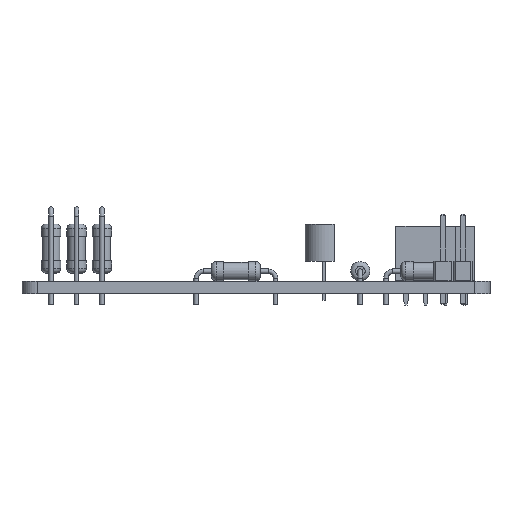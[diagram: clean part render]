
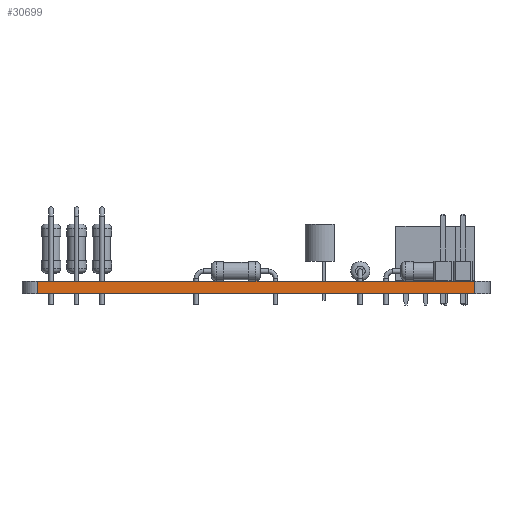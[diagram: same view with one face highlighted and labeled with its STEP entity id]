
A CAD part, front view. The second image highlights one B-rep face of the part: STEP entity #30699.
In plain terms, the highlighted planar face has unit normal (0, -1, 0).
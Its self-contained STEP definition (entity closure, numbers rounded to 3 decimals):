
#24664 = CYLINDRICAL_SURFACE('',#24665,2.);
#24665 = AXIS2_PLACEMENT_3D('',#24666,#24667,#24668);
#24666 = CARTESIAN_POINT('',(28.,-30.5,0.));
#24667 = DIRECTION('',(-0.,-0.,-1.));
#24668 = DIRECTION('',(1.,0.,-0.));
#24692 = PLANE('',#24693);
#24693 = AXIS2_PLACEMENT_3D('',#24694,#24695,#24696);
#24694 = CARTESIAN_POINT('',(0.,0.,1.6)
  );
#24695 = DIRECTION('',(0.,0.,1.));
#24696 = DIRECTION('',(1.,0.,-0.));
#24746 = PLANE('',#24747);
#24747 = AXIS2_PLACEMENT_3D('',#24748,#24749,#24750);
#24748 = CARTESIAN_POINT('',(0.,0.,0.)
  );
#24749 = DIRECTION('',(0.,0.,1.));
#24750 = DIRECTION('',(1.,0.,-0.));
#24761 = EDGE_CURVE('',#24762,#24764,#24766,.T.);
#24762 = VERTEX_POINT('',#24763);
#24763 = CARTESIAN_POINT('',(28.,-32.5,0.));
#24764 = VERTEX_POINT('',#24765);
#24765 = CARTESIAN_POINT('',(28.,-32.5,1.6));
#24766 = SURFACE_CURVE('',#24767,(#24771,#24778),.PCURVE_S1.);
#24767 = LINE('',#24768,#24769);
#24768 = CARTESIAN_POINT('',(28.,-32.5,0.));
#24769 = VECTOR('',#24770,1.);
#24770 = DIRECTION('',(0.,0.,1.));
#24771 = PCURVE('',#24664,#24772);
#24772 = DEFINITIONAL_REPRESENTATION('',(#24773),#24777);
#24773 = LINE('',#24774,#24775);
#24774 = CARTESIAN_POINT('',(-4.712,0.));
#24775 = VECTOR('',#24776,1.);
#24776 = DIRECTION('',(-0.,-1.));
#24777 = ( GEOMETRIC_REPRESENTATION_CONTEXT(2) 
PARAMETRIC_REPRESENTATION_CONTEXT() REPRESENTATION_CONTEXT('2D SPACE',''
  ) );
#24778 = PCURVE('',#24779,#24784);
#24779 = PLANE('',#24780);
#24780 = AXIS2_PLACEMENT_3D('',#24781,#24782,#24783);
#24781 = CARTESIAN_POINT('',(-28.,-32.5,0.));
#24782 = DIRECTION('',(0.,1.,0.));
#24783 = DIRECTION('',(1.,0.,0.));
#24784 = DEFINITIONAL_REPRESENTATION('',(#24785),#24789);
#24785 = LINE('',#24786,#24787);
#24786 = CARTESIAN_POINT('',(56.,0.));
#24787 = VECTOR('',#24788,1.);
#24788 = DIRECTION('',(0.,-1.));
#24789 = ( GEOMETRIC_REPRESENTATION_CONTEXT(2) 
PARAMETRIC_REPRESENTATION_CONTEXT() REPRESENTATION_CONTEXT('2D SPACE',''
  ) );
#25000 = VERTEX_POINT('',#25001);
#25001 = CARTESIAN_POINT('',(-28.,-32.5,0.));
#25016 = CYLINDRICAL_SURFACE('',#25017,2.);
#25017 = AXIS2_PLACEMENT_3D('',#25018,#25019,#25020);
#25018 = CARTESIAN_POINT('',(-28.,-30.5,0.));
#25019 = DIRECTION('',(-0.,-0.,-1.));
#25020 = DIRECTION('',(1.,0.,-0.));
#25028 = EDGE_CURVE('',#25000,#24762,#25029,.T.);
#25029 = SURFACE_CURVE('',#25030,(#25034,#25041),.PCURVE_S1.);
#25030 = LINE('',#25031,#25032);
#25031 = CARTESIAN_POINT('',(-28.,-32.5,0.));
#25032 = VECTOR('',#25033,1.);
#25033 = DIRECTION('',(1.,0.,0.));
#25034 = PCURVE('',#24746,#25035);
#25035 = DEFINITIONAL_REPRESENTATION('',(#25036),#25040);
#25036 = LINE('',#25037,#25038);
#25037 = CARTESIAN_POINT('',(-28.,-32.5));
#25038 = VECTOR('',#25039,1.);
#25039 = DIRECTION('',(1.,0.));
#25040 = ( GEOMETRIC_REPRESENTATION_CONTEXT(2) 
PARAMETRIC_REPRESENTATION_CONTEXT() REPRESENTATION_CONTEXT('2D SPACE',''
  ) );
#25041 = PCURVE('',#24779,#25042);
#25042 = DEFINITIONAL_REPRESENTATION('',(#25043),#25047);
#25043 = LINE('',#25044,#25045);
#25044 = CARTESIAN_POINT('',(0.,0.));
#25045 = VECTOR('',#25046,1.);
#25046 = DIRECTION('',(1.,0.));
#25047 = ( GEOMETRIC_REPRESENTATION_CONTEXT(2) 
PARAMETRIC_REPRESENTATION_CONTEXT() REPRESENTATION_CONTEXT('2D SPACE',''
  ) );
#28133 = VERTEX_POINT('',#28134);
#28134 = CARTESIAN_POINT('',(-28.,-32.5,1.6));
#28156 = EDGE_CURVE('',#28133,#24764,#28157,.T.);
#28157 = SURFACE_CURVE('',#28158,(#28162,#28169),.PCURVE_S1.);
#28158 = LINE('',#28159,#28160);
#28159 = CARTESIAN_POINT('',(-28.,-32.5,1.6));
#28160 = VECTOR('',#28161,1.);
#28161 = DIRECTION('',(1.,0.,0.));
#28162 = PCURVE('',#24692,#28163);
#28163 = DEFINITIONAL_REPRESENTATION('',(#28164),#28168);
#28164 = LINE('',#28165,#28166);
#28165 = CARTESIAN_POINT('',(-28.,-32.5));
#28166 = VECTOR('',#28167,1.);
#28167 = DIRECTION('',(1.,0.));
#28168 = ( GEOMETRIC_REPRESENTATION_CONTEXT(2) 
PARAMETRIC_REPRESENTATION_CONTEXT() REPRESENTATION_CONTEXT('2D SPACE',''
  ) );
#28169 = PCURVE('',#24779,#28170);
#28170 = DEFINITIONAL_REPRESENTATION('',(#28171),#28175);
#28171 = LINE('',#28172,#28173);
#28172 = CARTESIAN_POINT('',(0.,-1.6));
#28173 = VECTOR('',#28174,1.);
#28174 = DIRECTION('',(1.,0.));
#28175 = ( GEOMETRIC_REPRESENTATION_CONTEXT(2) 
PARAMETRIC_REPRESENTATION_CONTEXT() REPRESENTATION_CONTEXT('2D SPACE',''
  ) );
#30699 = ADVANCED_FACE('',(#30700),#24779,.F.);
#30700 = FACE_BOUND('',#30701,.F.);
#30701 = EDGE_LOOP('',(#30702,#30723,#30724,#30725));
#30702 = ORIENTED_EDGE('',*,*,#30703,.T.);
#30703 = EDGE_CURVE('',#25000,#28133,#30704,.T.);
#30704 = SURFACE_CURVE('',#30705,(#30709,#30716),.PCURVE_S1.);
#30705 = LINE('',#30706,#30707);
#30706 = CARTESIAN_POINT('',(-28.,-32.5,0.));
#30707 = VECTOR('',#30708,1.);
#30708 = DIRECTION('',(0.,0.,1.));
#30709 = PCURVE('',#24779,#30710);
#30710 = DEFINITIONAL_REPRESENTATION('',(#30711),#30715);
#30711 = LINE('',#30712,#30713);
#30712 = CARTESIAN_POINT('',(0.,0.));
#30713 = VECTOR('',#30714,1.);
#30714 = DIRECTION('',(0.,-1.));
#30715 = ( GEOMETRIC_REPRESENTATION_CONTEXT(2) 
PARAMETRIC_REPRESENTATION_CONTEXT() REPRESENTATION_CONTEXT('2D SPACE',''
  ) );
#30716 = PCURVE('',#25016,#30717);
#30717 = DEFINITIONAL_REPRESENTATION('',(#30718),#30722);
#30718 = LINE('',#30719,#30720);
#30719 = CARTESIAN_POINT('',(-4.712,0.));
#30720 = VECTOR('',#30721,1.);
#30721 = DIRECTION('',(-0.,-1.));
#30722 = ( GEOMETRIC_REPRESENTATION_CONTEXT(2) 
PARAMETRIC_REPRESENTATION_CONTEXT() REPRESENTATION_CONTEXT('2D SPACE',''
  ) );
#30723 = ORIENTED_EDGE('',*,*,#28156,.T.);
#30724 = ORIENTED_EDGE('',*,*,#24761,.F.);
#30725 = ORIENTED_EDGE('',*,*,#25028,.F.);
